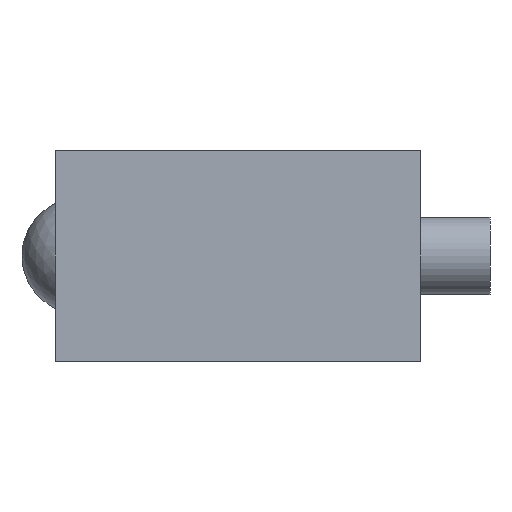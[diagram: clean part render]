
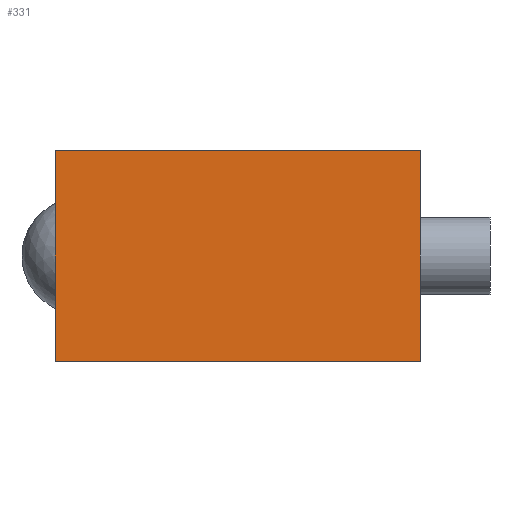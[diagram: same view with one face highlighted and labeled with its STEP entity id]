
A CAD part, left-side view. The second image highlights one B-rep face of the part: STEP entity #331.
In plain terms, the highlighted planar face has unit normal (-1, 0, 0).
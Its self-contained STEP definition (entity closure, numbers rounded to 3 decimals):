
#21=LINE('',#541,#37);
#27=LINE('',#556,#43);
#31=LINE('',#568,#47);
#33=LINE('',#571,#49);
#37=VECTOR('',#456,10.);
#43=VECTOR('',#466,10.);
#47=VECTOR('',#482,10.);
#49=VECTOR('',#486,10.);
#74=PLANE('',#391);
#96=FACE_OUTER_BOUND('',#130,.T.);
#130=EDGE_LOOP('',(#267,#268,#269,#270));
#166=VERTEX_POINT('',#539);
#167=VERTEX_POINT('',#540);
#173=VERTEX_POINT('',#553);
#174=VERTEX_POINT('',#555);
#194=EDGE_CURVE('',#166,#167,#21,.T.);
#201=EDGE_CURVE('',#173,#174,#27,.T.);
#207=EDGE_CURVE('',#174,#166,#31,.T.);
#209=EDGE_CURVE('',#167,#173,#33,.T.);
#267=ORIENTED_EDGE('',*,*,#201,.F.);
#268=ORIENTED_EDGE('',*,*,#209,.F.);
#269=ORIENTED_EDGE('',*,*,#194,.F.);
#270=ORIENTED_EDGE('',*,*,#207,.F.);
#331=ADVANCED_FACE('',(#96),#74,.T.);
#391=AXIS2_PLACEMENT_3D('',#570,#484,#485);
#456=DIRECTION('',(0.,0.,1.));
#466=DIRECTION('',(0.,0.,-1.));
#482=DIRECTION('',(0.,1.,0.));
#484=DIRECTION('center_axis',(-1.,0.,0.));
#485=DIRECTION('ref_axis',(0.,-1.,0.));
#486=DIRECTION('',(0.,-1.,0.));
#539=CARTESIAN_POINT('',(-135.,18.9,-10.9));
#540=CARTESIAN_POINT('',(-135.,18.9,10.9));
#541=CARTESIAN_POINT('',(-135.,18.9,0.));
#553=CARTESIAN_POINT('',(-135.,-18.9,10.9));
#555=CARTESIAN_POINT('',(-135.,-18.9,-10.9));
#556=CARTESIAN_POINT('',(-135.,-18.9,0.));
#568=CARTESIAN_POINT('',(-135.,18.9,-10.9));
#570=CARTESIAN_POINT('Origin',(-135.,18.9,0.));
#571=CARTESIAN_POINT('',(-135.,18.9,10.9));
